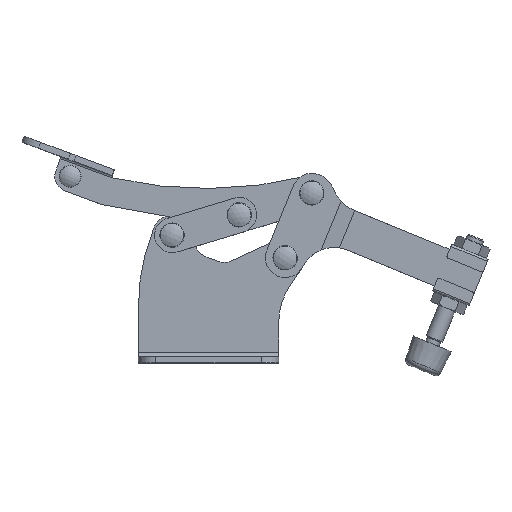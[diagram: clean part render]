
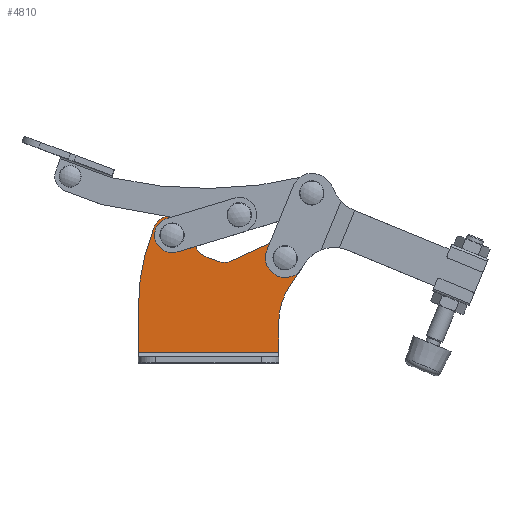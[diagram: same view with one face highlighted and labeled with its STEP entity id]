
A CAD part, top view. The second image highlights one B-rep face of the part: STEP entity #4810.
In plain terms, the highlighted planar face has unit normal (0, 0, 1).
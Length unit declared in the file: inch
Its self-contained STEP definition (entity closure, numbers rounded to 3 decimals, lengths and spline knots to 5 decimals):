
#257=PLANE('',#5297);
#481=LINE('',#7789,#791);
#487=LINE('',#7807,#797);
#499=LINE('',#7844,#809);
#501=LINE('',#7849,#811);
#502=LINE('',#7853,#812);
#503=LINE('',#7857,#813);
#504=LINE('',#7861,#814);
#505=LINE('',#7865,#815);
#791=VECTOR('',#6317,1.99954);
#797=VECTOR('',#6331,0.27522);
#809=VECTOR('',#6367,0.6423);
#811=VECTOR('',#6373,0.4093);
#812=VECTOR('',#6376,0.24812);
#813=VECTOR('',#6379,0.70778);
#814=VECTOR('',#6382,0.18835);
#815=VECTOR('',#6385,0.21921);
#1013=FACE_BOUND('',#1582,.T.);
#1014=FACE_BOUND('',#1583,.T.);
#1208=FACE_OUTER_BOUND('',#1581,.T.);
#1581=EDGE_LOOP('',(#3857,#3858,#3859,#3860,#3861,#3862,#3863,#3864,#3865,
#3866,#3867,#3868,#3869,#3870,#3871));
#1582=EDGE_LOOP('',(#3872));
#1583=EDGE_LOOP('',(#3873));
#1937=CIRCLE('',#5261,0.111);
#1939=CIRCLE('',#5264,0.111);
#1960=CIRCLE('',#5294,0.281);
#1961=CIRCLE('',#5298,3.);
#1962=CIRCLE('',#5299,1.);
#1963=CIRCLE('',#5300,0.281);
#1964=CIRCLE('',#5301,0.25);
#1965=CIRCLE('',#5302,0.25);
#1966=CIRCLE('',#5303,0.281);
#2296=VERTEX_POINT('',#7744);
#2298=VERTEX_POINT('',#7749);
#2313=VERTEX_POINT('',#7783);
#2315=VERTEX_POINT('',#7787);
#2320=VERTEX_POINT('',#7800);
#2323=VERTEX_POINT('',#7805);
#2335=VERTEX_POINT('',#7834);
#2336=VERTEX_POINT('',#7843);
#2337=VERTEX_POINT('',#7848);
#2338=VERTEX_POINT('',#7850);
#2339=VERTEX_POINT('',#7852);
#2340=VERTEX_POINT('',#7854);
#2341=VERTEX_POINT('',#7856);
#2342=VERTEX_POINT('',#7858);
#2343=VERTEX_POINT('',#7860);
#2344=VERTEX_POINT('',#7862);
#2345=VERTEX_POINT('',#7864);
#2844=EDGE_CURVE('',#2296,#2296,#1937,.T.);
#2846=EDGE_CURVE('',#2298,#2298,#1939,.T.);
#2863=EDGE_CURVE('',#2313,#2315,#481,.T.);
#2871=EDGE_CURVE('',#2323,#2320,#487,.T.);
#2886=EDGE_CURVE('',#2335,#2323,#1960,.T.);
#2891=EDGE_CURVE('',#2313,#2336,#499,.T.);
#2893=EDGE_CURVE('',#2336,#2335,#1961,.T.);
#2894=EDGE_CURVE('',#2337,#2315,#501,.T.);
#2895=EDGE_CURVE('',#2338,#2337,#1962,.T.);
#2896=EDGE_CURVE('',#2339,#2338,#502,.T.);
#2897=EDGE_CURVE('',#2340,#2339,#1963,.T.);
#2898=EDGE_CURVE('',#2341,#2340,#503,.T.);
#2899=EDGE_CURVE('',#2342,#2341,#1964,.T.);
#2900=EDGE_CURVE('',#2343,#2342,#504,.T.);
#2901=EDGE_CURVE('',#2344,#2343,#1965,.T.);
#2902=EDGE_CURVE('',#2345,#2344,#505,.T.);
#2903=EDGE_CURVE('',#2320,#2345,#1966,.T.);
#3857=ORIENTED_EDGE('',*,*,#2871,.F.);
#3858=ORIENTED_EDGE('',*,*,#2886,.F.);
#3859=ORIENTED_EDGE('',*,*,#2893,.F.);
#3860=ORIENTED_EDGE('',*,*,#2891,.F.);
#3861=ORIENTED_EDGE('',*,*,#2863,.T.);
#3862=ORIENTED_EDGE('',*,*,#2894,.F.);
#3863=ORIENTED_EDGE('',*,*,#2895,.F.);
#3864=ORIENTED_EDGE('',*,*,#2896,.F.);
#3865=ORIENTED_EDGE('',*,*,#2897,.F.);
#3866=ORIENTED_EDGE('',*,*,#2898,.F.);
#3867=ORIENTED_EDGE('',*,*,#2899,.F.);
#3868=ORIENTED_EDGE('',*,*,#2900,.F.);
#3869=ORIENTED_EDGE('',*,*,#2901,.F.);
#3870=ORIENTED_EDGE('',*,*,#2902,.F.);
#3871=ORIENTED_EDGE('',*,*,#2903,.F.);
#3872=ORIENTED_EDGE('',*,*,#2844,.F.);
#3873=ORIENTED_EDGE('',*,*,#2846,.F.);
#4810=ADVANCED_FACE('',(#1208,#1013,#1014),#257,.T.);
#5261=AXIS2_PLACEMENT_3D('',#7745,#6272,#6273);
#5264=AXIS2_PLACEMENT_3D('',#7750,#6278,#6279);
#5294=AXIS2_PLACEMENT_3D('',#7836,#6357,#6358);
#5297=AXIS2_PLACEMENT_3D('',#7846,#6369,#6370);
#5298=AXIS2_PLACEMENT_3D('',#7847,#6371,#6372);
#5299=AXIS2_PLACEMENT_3D('',#7851,#6374,#6375);
#5300=AXIS2_PLACEMENT_3D('',#7855,#6377,#6378);
#5301=AXIS2_PLACEMENT_3D('',#7859,#6380,#6381);
#5302=AXIS2_PLACEMENT_3D('',#7863,#6383,#6384);
#5303=AXIS2_PLACEMENT_3D('',#7866,#6386,#6387);
#6272=DIRECTION('center_axis',(0.,0.,
1.));
#6273=DIRECTION('ref_axis',(-1.,0.,0.));
#6278=DIRECTION('center_axis',(0.,0.,
1.));
#6279=DIRECTION('ref_axis',(-1.,0.,0.));
#6317=DIRECTION('',(1.,0.,0.));
#6331=DIRECTION('',(0.986,-0.167,0.));
#6357=DIRECTION('center_axis',(0.,0.,
-1.));
#6358=DIRECTION('ref_axis',(-0.968,0.251,0.));
#6367=DIRECTION('',(0.,1.,0.));
#6369=DIRECTION('center_axis',(0.,0.,
1.));
#6370=DIRECTION('ref_axis',(1.,0.,0.));
#6371=DIRECTION('center_axis',(0.,0.,
-1.));
#6372=DIRECTION('ref_axis',(-1.,0.,0.));
#6373=DIRECTION('',(0.,-1.,0.));
#6374=DIRECTION('center_axis',(0.,0.,
1.));
#6375=DIRECTION('ref_axis',(1.,0.,0.));
#6376=DIRECTION('',(-0.574,-0.819,0.));
#6377=DIRECTION('center_axis',(0.,0.,
-1.));
#6378=DIRECTION('ref_axis',(-0.421,0.907,0.));
#6379=DIRECTION('',(0.907,0.421,0.));
#6380=DIRECTION('center_axis',(0.,0.,
1.));
#6381=DIRECTION('ref_axis',(-0.421,0.907,0.));
#6382=DIRECTION('',(0.939,-0.343,0.));
#6383=DIRECTION('center_axis',(0.,0.,
1.));
#6384=DIRECTION('ref_axis',(0.343,0.939,0.));
#6385=DIRECTION('',(0.257,-0.966,0.));
#6386=DIRECTION('center_axis',(0.,0.,
-1.));
#6387=DIRECTION('ref_axis',(-0.968,0.251,0.));
#7744=CARTESIAN_POINT('',(16.87628,9.48615,-0.49316));
#7745=CARTESIAN_POINT('Origin',(16.76528,9.48615,-0.49316));
#7749=CARTESIAN_POINT('',(18.48828,9.16276,-0.49316));
#7750=CARTESIAN_POINT('Origin',(18.37728,9.16276,-0.49316));
#7783=CARTESIAN_POINT('',(16.28476,7.81546,-0.49316));
#7787=CARTESIAN_POINT('',(18.2843,7.81546,-0.49316));
#7789=CARTESIAN_POINT('',(16.28476,7.81546,-0.49316));
#7800=CARTESIAN_POINT('',(16.94178,9.7048,-0.49316));
#7805=CARTESIAN_POINT('',(16.67041,9.75065,-0.49316));
#7807=CARTESIAN_POINT('',(16.67041,9.75065,-0.49316));
#7834=CARTESIAN_POINT('',(16.49327,9.55665,-0.49316));
#7836=CARTESIAN_POINT('Origin',(16.76528,9.48615,-0.49316));
#7843=CARTESIAN_POINT('',(16.28476,8.45776,-0.49316));
#7844=CARTESIAN_POINT('',(16.28476,7.81546,-0.49316));
#7846=CARTESIAN_POINT('Origin',(17.47152,9.75065,-0.49316));
#7847=CARTESIAN_POINT('Origin',(19.28476,8.45776,-0.49316));
#7848=CARTESIAN_POINT('',(18.2843,8.22476,-0.49316));
#7849=CARTESIAN_POINT('',(18.2843,8.22476,-0.49316));
#7850=CARTESIAN_POINT('',(18.46515,8.79834,-0.49316));
#7851=CARTESIAN_POINT('Origin',(19.2843,8.22476,-0.49316));
#7852=CARTESIAN_POINT('',(18.60746,9.00159,-0.49316));
#7853=CARTESIAN_POINT('',(18.60746,9.00159,-0.49316));
#7854=CARTESIAN_POINT('',(18.25892,9.41762,-0.49316));
#7855=CARTESIAN_POINT('Origin',(18.37728,9.16276,-0.49316));
#7856=CARTESIAN_POINT('',(17.61699,9.11951,-0.49316));
#7857=CARTESIAN_POINT('',(17.61699,9.11951,-0.49316));
#7858=CARTESIAN_POINT('',(17.42582,9.11146,-0.49316));
#7859=CARTESIAN_POINT('Origin',(17.51169,9.34625,-0.49316));
#7860=CARTESIAN_POINT('',(17.24893,9.17616,-0.49316));
#7861=CARTESIAN_POINT('',(17.24893,9.17616,-0.49316));
#7862=CARTESIAN_POINT('',(17.09322,9.34662,-0.49316));
#7863=CARTESIAN_POINT('Origin',(17.33481,9.41095,-0.49316));
#7864=CARTESIAN_POINT('',(17.03682,9.55845,-0.49316));
#7865=CARTESIAN_POINT('',(17.03682,9.55845,-0.49316));
#7866=CARTESIAN_POINT('Origin',(16.76528,9.48615,-0.49316));
